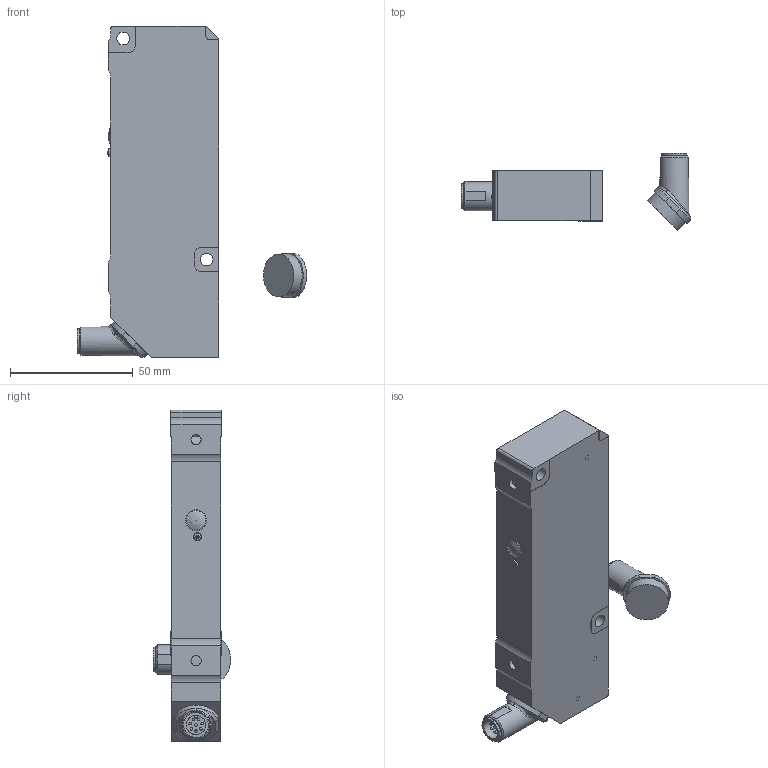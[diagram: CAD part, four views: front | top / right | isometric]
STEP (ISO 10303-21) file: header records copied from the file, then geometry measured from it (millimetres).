
FILE_DESCRIPTION( ( 'Unknown' ), '1' );
FILE_NAME( '//Server-file-1/e_me/Solid Edge/Models/Dokumentationen/Opto/OADM 21_S14F/Vereinfachte Modelle/Neutralformate/OADM 21.stp', 'Unknown', ( 'Unknown' ), ( 'Unknown' ), 'XStep 1.0', 'Unknown', ' ' );
FILE_SCHEMA( ( 'CONFIG_CONTROL_DESIGN' ) );
Length unit declared in the file: millimetre
Products named in the file (3): Assem1; Winkelstecker m Stiftplatte; Geh. o Anbauteile
Bounding box: 93.41 x 31.42 x 135 mm (x, y, z)
Volume: 236900.3 mm3; surface area: 46000.3 mm2
Topology: 4 solids, 20 shells, 526 faces, 1366 edges, 906 vertices
Faces by surface type: plane 262, cylinder 194, cone 36, sphere 22, bspline 6, torus 6
Full cylindrical faces by diameter (mm): 1 x34, 2.1 x8, 2.5 x2, 2.6 x2, 3.15 x2, 3.2 x2, 4.134 x4, 5.2 x4, 7.85 x2, 8 x4, 8.5 x2, 9 x4, 9.4 x6, 9.55 x4, 10 x2, 10.05 x2, 12 x2, 17.5 x2, 17.7 x2
Entity records: 8727 total; most frequent: CARTESIAN_POINT 2541, DIRECTION 1261, ORIENTED_EDGE 1160, EDGE_CURVE 580, AXIS2_PLACEMENT_3D 491, VERTEX_POINT 431, EDGE_LOOP 354, FACE_OUTER_BOUND 312
